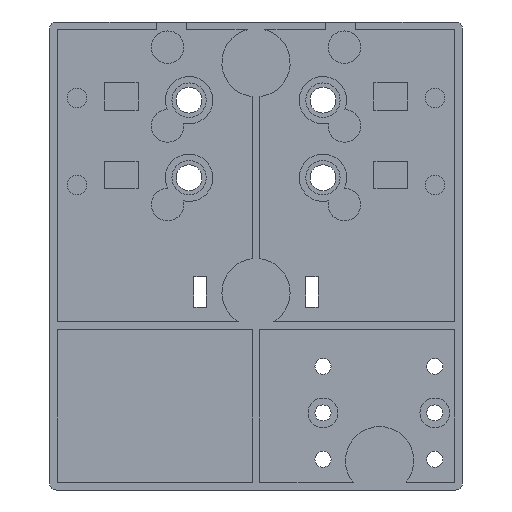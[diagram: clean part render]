
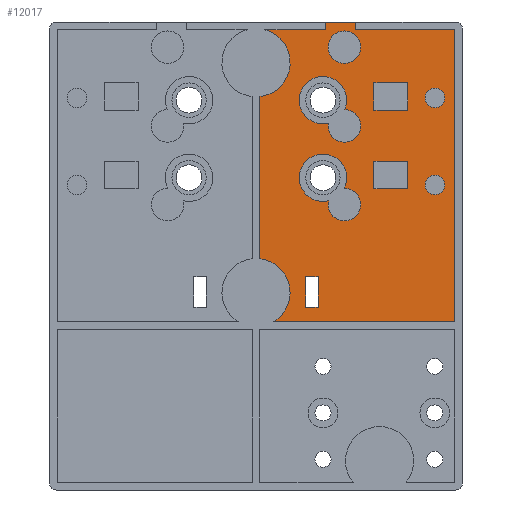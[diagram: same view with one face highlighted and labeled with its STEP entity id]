
A CAD part, front view. The second image highlights one B-rep face of the part: STEP entity #12017.
In plain terms, the highlighted planar face has unit normal (0, -1, 0).
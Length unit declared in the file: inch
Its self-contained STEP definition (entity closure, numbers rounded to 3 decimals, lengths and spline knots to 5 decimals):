
#380=FACE_BOUND('',#1778,.T.);
#381=FACE_BOUND('',#1779,.T.);
#382=FACE_BOUND('',#1780,.T.);
#383=FACE_BOUND('',#1781,.T.);
#384=FACE_BOUND('',#1782,.T.);
#385=FACE_BOUND('',#1783,.T.);
#386=FACE_BOUND('',#1784,.T.);
#387=FACE_BOUND('',#1785,.T.);
#510=CIRCLE('',#12925,0.1925);
#511=CIRCLE('',#12927,0.1925);
#512=CIRCLE('',#12929,0.132);
#513=CIRCLE('',#12931,0.132);
#514=CIRCLE('',#12933,0.277);
#515=CIRCLE('',#12934,0.277);
#516=CIRCLE('',#12935,0.132);
#517=CIRCLE('',#12936,0.08);
#518=CIRCLE('',#12937,0.08);
#1084=FACE_OUTER_BOUND('',#1777,.T.);
#1777=EDGE_LOOP('',(#8171,#8172,#8173,#8174,#8175,#8176,#8177,#8178,#8179,
#8180));
#1778=EDGE_LOOP('',(#8181,#8182,#8183,#8184));
#1779=EDGE_LOOP('',(#8185,#8186,#8187,#8188));
#1780=EDGE_LOOP('',(#8189,#8190,#8191,#8192));
#1781=EDGE_LOOP('',(#8193,#8194));
#1782=EDGE_LOOP('',(#8195));
#1783=EDGE_LOOP('',(#8196));
#1784=EDGE_LOOP('',(#8197));
#1785=EDGE_LOOP('',(#8198,#8199));
#2518=LINE('',#17434,#3771);
#2521=LINE('',#17440,#3774);
#2524=LINE('',#17446,#3777);
#2527=LINE('',#17450,#3780);
#2530=LINE('',#17458,#3783);
#2534=LINE('',#17465,#3787);
#2537=LINE('',#17471,#3790);
#2539=LINE('',#17474,#3792);
#2554=LINE('',#17506,#3807);
#2558=LINE('',#17513,#3811);
#2561=LINE('',#17519,#3814);
#2563=LINE('',#17522,#3816);
#2612=LINE('',#17691,#3865);
#2613=LINE('',#17695,#3866);
#2614=LINE('',#17697,#3867);
#2615=LINE('',#17699,#3868);
#2616=LINE('',#17701,#3869);
#2617=LINE('',#17703,#3870);
#2618=LINE('',#17705,#3871);
#2619=LINE('',#17706,#3872);
#3771=VECTOR('',#13972,0.3937);
#3774=VECTOR('',#13977,0.3937);
#3777=VECTOR('',#13982,0.3937);
#3780=VECTOR('',#13987,0.3937);
#3783=VECTOR('',#13992,0.3937);
#3787=VECTOR('',#13998,0.3937);
#3790=VECTOR('',#14003,0.3937);
#3792=VECTOR('',#14007,0.3937);
#3807=VECTOR('',#14032,0.3937);
#3811=VECTOR('',#14038,0.3937);
#3814=VECTOR('',#14043,0.3937);
#3816=VECTOR('',#14047,0.3937);
#3865=VECTOR('',#14208,0.3937);
#3866=VECTOR('',#14211,0.3937);
#3867=VECTOR('',#14212,0.3937);
#3868=VECTOR('',#14213,0.3937);
#3869=VECTOR('',#14214,0.3937);
#3870=VECTOR('',#14215,0.3937);
#3871=VECTOR('',#14216,0.3937);
#3872=VECTOR('',#14217,0.3937);
#5024=VERTEX_POINT('',#17431);
#5025=VERTEX_POINT('',#17433);
#5027=VERTEX_POINT('',#17439);
#5029=VERTEX_POINT('',#17445);
#5032=VERTEX_POINT('',#17455);
#5033=VERTEX_POINT('',#17457);
#5035=VERTEX_POINT('',#17463);
#5037=VERTEX_POINT('',#17469);
#5048=VERTEX_POINT('',#17503);
#5049=VERTEX_POINT('',#17505);
#5051=VERTEX_POINT('',#17511);
#5053=VERTEX_POINT('',#17517);
#5111=VERTEX_POINT('',#17671);
#5112=VERTEX_POINT('',#17673);
#5113=VERTEX_POINT('',#17677);
#5114=VERTEX_POINT('',#17679);
#5115=VERTEX_POINT('',#17687);
#5116=VERTEX_POINT('',#17688);
#5117=VERTEX_POINT('',#17690);
#5118=VERTEX_POINT('',#17692);
#5119=VERTEX_POINT('',#17694);
#5120=VERTEX_POINT('',#17696);
#5121=VERTEX_POINT('',#17698);
#5122=VERTEX_POINT('',#17700);
#5123=VERTEX_POINT('',#17702);
#5124=VERTEX_POINT('',#17704);
#5125=VERTEX_POINT('',#17707);
#5126=VERTEX_POINT('',#17709);
#5127=VERTEX_POINT('',#17711);
#6188=EDGE_CURVE('',#5025,#5024,#2518,.T.);
#6191=EDGE_CURVE('',#5027,#5025,#2521,.T.);
#6194=EDGE_CURVE('',#5029,#5027,#2524,.T.);
#6197=EDGE_CURVE('',#5024,#5029,#2527,.T.);
#6200=EDGE_CURVE('',#5033,#5032,#2530,.T.);
#6204=EDGE_CURVE('',#5032,#5035,#2534,.T.);
#6207=EDGE_CURVE('',#5035,#5037,#2537,.T.);
#6209=EDGE_CURVE('',#5037,#5033,#2539,.T.);
#6224=EDGE_CURVE('',#5049,#5048,#2554,.T.);
#6228=EDGE_CURVE('',#5048,#5051,#2558,.T.);
#6231=EDGE_CURVE('',#5051,#5053,#2561,.T.);
#6233=EDGE_CURVE('',#5053,#5049,#2563,.T.);
#6309=EDGE_CURVE('',#5111,#5112,#510,.T.);
#6312=EDGE_CURVE('',#5113,#5114,#511,.T.);
#6313=EDGE_CURVE('',#5112,#5111,#512,.T.);
#6314=EDGE_CURVE('',#5114,#5113,#513,.T.);
#6315=EDGE_CURVE('',#5115,#5116,#514,.T.);
#6316=EDGE_CURVE('',#5116,#5117,#2612,.T.);
#6317=EDGE_CURVE('',#5117,#5118,#515,.T.);
#6318=EDGE_CURVE('',#5118,#5119,#2613,.T.);
#6319=EDGE_CURVE('',#5120,#5119,#2614,.F.);
#6320=EDGE_CURVE('',#5121,#5120,#2615,.F.);
#6321=EDGE_CURVE('',#5122,#5121,#2616,.T.);
#6322=EDGE_CURVE('',#5123,#5122,#2617,.T.);
#6323=EDGE_CURVE('',#5123,#5124,#2618,.T.);
#6324=EDGE_CURVE('',#5115,#5124,#2619,.F.);
#6325=EDGE_CURVE('',#5125,#5125,#516,.T.);
#6326=EDGE_CURVE('',#5126,#5126,#517,.T.);
#6327=EDGE_CURVE('',#5127,#5127,#518,.T.);
#8171=ORIENTED_EDGE('',*,*,#6315,.T.);
#8172=ORIENTED_EDGE('',*,*,#6316,.T.);
#8173=ORIENTED_EDGE('',*,*,#6317,.T.);
#8174=ORIENTED_EDGE('',*,*,#6318,.T.);
#8175=ORIENTED_EDGE('',*,*,#6319,.F.);
#8176=ORIENTED_EDGE('',*,*,#6320,.F.);
#8177=ORIENTED_EDGE('',*,*,#6321,.F.);
#8178=ORIENTED_EDGE('',*,*,#6322,.F.);
#8179=ORIENTED_EDGE('',*,*,#6323,.T.);
#8180=ORIENTED_EDGE('',*,*,#6324,.F.);
#8181=ORIENTED_EDGE('',*,*,#6188,.T.);
#8182=ORIENTED_EDGE('',*,*,#6197,.T.);
#8183=ORIENTED_EDGE('',*,*,#6194,.T.);
#8184=ORIENTED_EDGE('',*,*,#6191,.T.);
#8185=ORIENTED_EDGE('',*,*,#6200,.T.);
#8186=ORIENTED_EDGE('',*,*,#6204,.T.);
#8187=ORIENTED_EDGE('',*,*,#6207,.T.);
#8188=ORIENTED_EDGE('',*,*,#6209,.T.);
#8189=ORIENTED_EDGE('',*,*,#6224,.T.);
#8190=ORIENTED_EDGE('',*,*,#6228,.T.);
#8191=ORIENTED_EDGE('',*,*,#6231,.T.);
#8192=ORIENTED_EDGE('',*,*,#6233,.T.);
#8193=ORIENTED_EDGE('',*,*,#6309,.T.);
#8194=ORIENTED_EDGE('',*,*,#6313,.T.);
#8195=ORIENTED_EDGE('',*,*,#6325,.T.);
#8196=ORIENTED_EDGE('',*,*,#6326,.T.);
#8197=ORIENTED_EDGE('',*,*,#6327,.T.);
#8198=ORIENTED_EDGE('',*,*,#6312,.T.);
#8199=ORIENTED_EDGE('',*,*,#6314,.T.);
#11569=PLANE('',#12932);
#12017=ADVANCED_FACE('',(#1084,#380,#381,#382,#383,#384,#385,#386,#387),
#11569,.F.);
#12925=AXIS2_PLACEMENT_3D('',#17675,#14188,#14189);
#12927=AXIS2_PLACEMENT_3D('',#17681,#14194,#14195);
#12929=AXIS2_PLACEMENT_3D('',#17683,#14198,#14199);
#12931=AXIS2_PLACEMENT_3D('',#17685,#14202,#14203);
#12932=AXIS2_PLACEMENT_3D('',#17686,#14204,#14205);
#12933=AXIS2_PLACEMENT_3D('',#17689,#14206,#14207);
#12934=AXIS2_PLACEMENT_3D('',#17693,#14209,#14210);
#12935=AXIS2_PLACEMENT_3D('',#17708,#14218,#14219);
#12936=AXIS2_PLACEMENT_3D('',#17710,#14220,#14221);
#12937=AXIS2_PLACEMENT_3D('',#17712,#14222,#14223);
#13972=DIRECTION('',(0.,0.,1.));
#13977=DIRECTION('',(-1.,0.,0.));
#13982=DIRECTION('',(0.,0.,-1.));
#13987=DIRECTION('',(1.,0.,0.));
#13992=DIRECTION('',(1.,0.,0.));
#13998=DIRECTION('',(0.,0.,-1.));
#14003=DIRECTION('',(-1.,0.,0.));
#14007=DIRECTION('',(0.,0.,1.));
#14032=DIRECTION('',(0.,0.,1.));
#14038=DIRECTION('',(1.,0.,0.));
#14043=DIRECTION('',(0.,0.,-1.));
#14047=DIRECTION('',(-1.,0.,0.));
#14188=DIRECTION('center_axis',(0.,1.,0.));
#14189=DIRECTION('ref_axis',(-1.,0.,0.));
#14194=DIRECTION('center_axis',(0.,1.,0.));
#14195=DIRECTION('ref_axis',(-1.,0.,0.));
#14198=DIRECTION('center_axis',(0.,1.,0.));
#14199=DIRECTION('ref_axis',(-1.,0.,0.));
#14202=DIRECTION('center_axis',(0.,1.,0.));
#14203=DIRECTION('ref_axis',(-1.,0.,0.));
#14204=DIRECTION('center_axis',(0.,1.,0.));
#14205=DIRECTION('ref_axis',(0.,0.,1.));
#14206=DIRECTION('center_axis',(0.,1.,0.));
#14207=DIRECTION('ref_axis',(-1.,0.,0.));
#14208=DIRECTION('',(0.,0.,-1.));
#14209=DIRECTION('center_axis',(0.,1.,0.));
#14210=DIRECTION('ref_axis',(-1.,0.,0.));
#14211=DIRECTION('',(1.,0.,0.));
#14212=DIRECTION('',(0.,0.,1.));
#14213=DIRECTION('',(-1.,0.,0.));
#14214=DIRECTION('',(0.,0.,-1.));
#14215=DIRECTION('',(1.,0.,0.));
#14216=DIRECTION('',(0.,0.,-1.));
#14217=DIRECTION('',(-1.,0.,0.));
#14218=DIRECTION('center_axis',(0.,1.,0.));
#14219=DIRECTION('ref_axis',(-1.,0.,0.));
#14220=DIRECTION('center_axis',(0.,1.,0.));
#14221=DIRECTION('ref_axis',(-1.,0.,0.));
#14222=DIRECTION('center_axis',(0.,1.,0.));
#14223=DIRECTION('ref_axis',(-1.,0.,0.));
#17431=CARTESIAN_POINT('',(0.9575,0.1225,0.7695));
#17433=CARTESIAN_POINT('',(0.9575,0.1225,0.5475));
#17434=CARTESIAN_POINT('',(0.9575,0.1225,0.27375));
#17439=CARTESIAN_POINT('',(1.2325,0.1225,0.5475));
#17440=CARTESIAN_POINT('',(0.61625,0.1225,0.5475));
#17445=CARTESIAN_POINT('',(1.2325,0.1225,0.7695));
#17446=CARTESIAN_POINT('',(1.2325,0.1225,0.38475));
#17450=CARTESIAN_POINT('',(0.47875,0.1225,0.7695));
#17455=CARTESIAN_POINT('',(1.2325,0.1225,1.4065));
#17457=CARTESIAN_POINT('',(0.9575,0.1225,1.4065));
#17458=CARTESIAN_POINT('',(0.47875,0.1225,1.4065));
#17463=CARTESIAN_POINT('',(1.2325,0.1225,1.1845));
#17465=CARTESIAN_POINT('',(1.2325,0.1225,0.70325));
#17469=CARTESIAN_POINT('',(0.9575,0.1225,1.1845));
#17471=CARTESIAN_POINT('',(0.61625,0.1225,1.1845));
#17474=CARTESIAN_POINT('',(0.9575,0.1225,0.59225));
#17503=CARTESIAN_POINT('',(0.404,0.1225,-0.1665));
#17505=CARTESIAN_POINT('',(0.404,0.1225,-0.4165));
#17506=CARTESIAN_POINT('',(0.404,0.1225,-0.20825));
#17511=CARTESIAN_POINT('',(0.504,0.1225,-0.1665));
#17513=CARTESIAN_POINT('',(0.202,0.1225,-0.1665));
#17517=CARTESIAN_POINT('',(0.504,0.1225,-0.4165));
#17519=CARTESIAN_POINT('',(0.504,0.1225,-0.08325));
#17522=CARTESIAN_POINT('',(0.252,0.1225,-0.4165));
#17671=CARTESIAN_POINT('',(0.58788,0.1225,1.07819));
#17673=CARTESIAN_POINT('',(0.71971,0.1225,1.18799));
#17675=CARTESIAN_POINT('Origin',(0.5435,0.1225,1.2655));
#17677=CARTESIAN_POINT('',(0.58985,0.1225,0.44866));
#17679=CARTESIAN_POINT('',(0.71546,0.1225,0.54898));
#17681=CARTESIAN_POINT('Origin',(0.5435,0.1225,0.6355));
#17683=CARTESIAN_POINT('Origin',(0.718,0.1225,1.056));
#17685=CARTESIAN_POINT('Origin',(0.718,0.1225,0.417));
#17686=CARTESIAN_POINT('Origin',(0.,0.1225,0.));
#17687=CARTESIAN_POINT('',(0.07192,0.1225,1.8375));
#17688=CARTESIAN_POINT('',(0.03125,0.1225,1.29477));
#17689=CARTESIAN_POINT('Origin',(0.,0.1225,1.57));
#17690=CARTESIAN_POINT('',(0.03125,0.1225,-0.02227));
#17691=CARTESIAN_POINT('',(0.03125,0.1225,-0.2675));
#17692=CARTESIAN_POINT('',(0.14256,0.1225,-0.535));
#17693=CARTESIAN_POINT('Origin',(0.,0.1225,-0.2975));
#17694=CARTESIAN_POINT('',(1.6155,0.1225,-0.535));
#17695=CARTESIAN_POINT('',(0.80775,0.1225,-0.535));
#17696=CARTESIAN_POINT('',(1.6155,0.1225,1.8375));
#17697=CARTESIAN_POINT('',(1.6155,0.1225,0.95));
#17698=CARTESIAN_POINT('',(0.81,0.1225,1.8375));
#17699=CARTESIAN_POINT('',(-0.839,0.1225,1.8375));
#17700=CARTESIAN_POINT('',(0.81,0.1225,1.9));
#17701=CARTESIAN_POINT('',(0.81,0.1225,1.9));
#17702=CARTESIAN_POINT('',(0.565,0.1225,1.9));
#17703=CARTESIAN_POINT('',(-0.434,0.1225,1.9));
#17704=CARTESIAN_POINT('',(0.565,0.1225,1.8375));
#17705=CARTESIAN_POINT('',(0.565,0.1225,1.9));
#17706=CARTESIAN_POINT('',(-0.839,0.1225,1.8375));
#17707=CARTESIAN_POINT('',(0.85,0.1225,1.695));
#17708=CARTESIAN_POINT('Origin',(0.718,0.1225,1.695));
#17709=CARTESIAN_POINT('',(1.533,0.1225,1.284));
#17710=CARTESIAN_POINT('Origin',(1.453,0.1225,1.284));
#17711=CARTESIAN_POINT('',(1.533,0.1225,0.577));
#17712=CARTESIAN_POINT('Origin',(1.453,0.1225,0.577));
